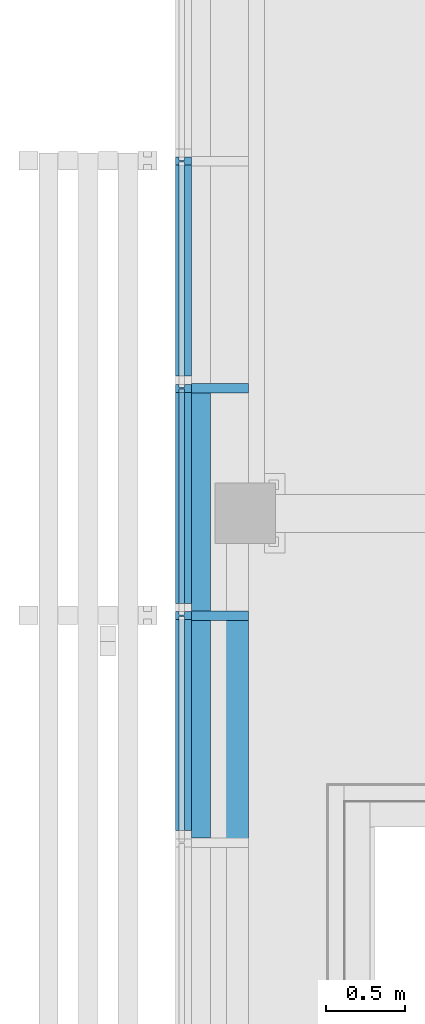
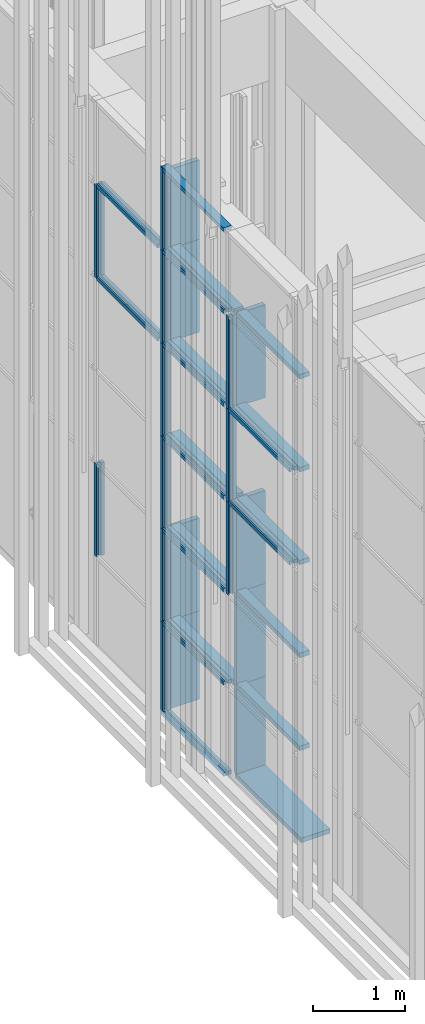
# One storey, part 19 of 260: 41 members, 2 elements without a shape of their own.
"""IFC2X3 building model written with IfcOpenShell, lengths in millimetres."""

from ifc_helpers import new_model, entity, si_unit, converted_unit, derived_unit, money_unit, direction, frame, origin_with_axes, place, context, subcontext, project, spatial, faceted_brep, source, transform, mapped, material, type_object, element, aggregate, save


model = new_model("IFC2X3")

# Units and contexts
model_context = context("Model", 3, precision=0.01, world=origin_with_axes(), true_north=direction((0.0, 1.0)))
body_context = subcontext(model_context, "Body", "Model", "MODEL_VIEW")
ifc_project = project(units=[si_unit("LENGTHUNIT", "METRE", prefix="MILLI"), si_unit("AREAUNIT", "SQUARE_METRE"), si_unit("VOLUMEUNIT", "CUBIC_METRE"), converted_unit("PLANEANGLEUNIT", "DEGREE", entity("IfcPlaneAngleMeasure", 0.0174532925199), si_unit("PLANEANGLEUNIT", "RADIAN"), dimensions=[0, 0, 0, 0, 0, 0, 0]), money_unit("EUR"), converted_unit("TIMEUNIT", "Year", entity("IfcTimeMeasure", 31556926.0), si_unit("TIMEUNIT", "SECOND"), dimensions=[0, 0, 1, 0, 0, 0, 0]), si_unit("MASSUNIT", "GRAM", prefix="KILO"), si_unit("THERMODYNAMICTEMPERATUREUNIT", "DEGREE_CELSIUS"), si_unit("LUMINOUSINTENSITYUNIT", "LUMEN"), si_unit("ENERGYUNIT", "JOULE", prefix="MEGA"), derived_unit("THERMALCONDUCTANCEUNIT", [(si_unit("POWERUNIT", "WATT"), 1), (si_unit("LENGTHUNIT", "METRE"), -1), (si_unit("THERMODYNAMICTEMPERATUREUNIT", "KELVIN"), -1)]), derived_unit("SPECIFICHEATCAPACITYUNIT", [(si_unit("ENERGYUNIT", "JOULE"), 1), (si_unit("MASSUNIT", "GRAM", prefix="KILO"), -1), (si_unit("THERMODYNAMICTEMPERATUREUNIT", "KELVIN"), -1)]), derived_unit("MASSDENSITYUNIT", [(si_unit("MASSUNIT", "GRAM", prefix="KILO"), 1), (si_unit("VOLUMEUNIT", "CUBIC_METRE"), -1)])], contexts=[model_context])

# Site, building, storey
site_placement = place(None, origin_with_axes())
site = spatial("IfcSite", under=ifc_project, at=site_placement, Name="Kolde pst 67a", CompositionType="ELEMENT")
building_placement = place(site_placement, origin_with_axes())
building = spatial("IfcBuilding", under=site, at=building_placement, Name="Riigigümnaasium", CompositionType="ELEMENT")
storey_placement = place(building_placement, origin_with_axes())
storey = spatial("IfcBuildingStorey", under=building, at=storey_placement, Name="1. korrus", CompositionType="ELEMENT", Elevation=0.0)

# Curtain wall, members
curtain_wall_type = type_object("IfcCurtainWallType", Name="Curtain Wall Type", PredefinedType="NOTDEFINED")
curtain_wall_1_placement = place(storey_placement, frame((47829.9854655, 8727.77020058, -0.000749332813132), z_axis=(0.0, 0.0, 1.0), x_axis=(1.0, 0.0, 0.0)))
curtain_wall_1 = element("IfcCurtainWall", 1, at=curtain_wall_1_placement, inside=storey, type_object=curtain_wall_type, Name="KLAASFASSAAD")
ifc_material_1 = material(Name="_METALL - alumiinium")
member_type_1 = type_object("IfcMemberType", Name="Mullion Frame 50 x 100", PredefinedType="MEMBER")
shared_shape_1 = source(origin_with_axes(), body_context, "Body", "Brep", [
    faceted_brep([(5.0, -16.5, 1230.00046362), (5.0, 16.5, 1230.00046362), (25.0, 16.5, 1230.00046362), (25.0, 40.0, 1230.00046362), (-25.0, 40.0, 1230.00046362), (-25.0, 16.5, 1230.00046362), (-5.0, 16.5, 1230.00046362), (-5.0, -16.5, 1230.00046362), (-25.0, -16.5, 1230.00046362), (-25.0, -60.0, 1230.00046362), (25.0, -60.0, 1230.00046362), (25.0, -16.5, 1230.00046362), (5.0, -16.5, 50.0), (5.0, 16.5, 50.0), (25.0, 16.5, 50.0), (25.0, 40.0, 50.0), (-25.0, 40.0, 50.0), (-25.0, 16.5, 50.0), (-5.0, 16.5, 50.0), (-5.0, -16.5, 50.0), (-25.0, -16.5, 50.0), (-25.0, -60.0, 50.0), (25.0, -60.0, 50.0), (25.0, -16.5, 50.0)], [[[0, 1, 2, 3, 4, 5, 6, 7, 8, 9, 10, 11]], [[0, 12, 13, 1]], [[1, 13, 14, 2]], [[14, 15, 3, 2]], [[4, 3, 15, 16]], [[17, 5, 4, 16]], [[5, 17, 18, 6]], [[7, 6, 18, 19]], [[8, 7, 19, 20]], [[8, 20, 21, 9]], [[10, 9, 21, 22]], [[11, 10, 22, 23]], [[11, 23, 12, 0]], [[13, 12, 23, 22, 21, 20, 19, 18, 17, 16, 15, 14]]]),
])
member_1_placement = place(curtain_wall_1_placement, frame((-8.66836558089e-06, 9508.79106023, 0.0), z_axis=(0.0, 6.32597545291e-09, 1.0), x_axis=(9.11613907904e-10, -1.0, 6.32597545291e-09)))
member_1 = element("IfcMember", 2, at=member_1_placement, type_object=member_type_1, material=ifc_material_1, Name="RF RAAM VERT-959", ObjectType="MEMBER", context=body_context, shape_type="MappedRepresentation", body=[
    mapped(shared_shape_1, transform((0.0, 0.0, 0.0), x_axis=(-1.0, 0.0, 6.32597545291e-09), y_axis=(0.0, -1.0, 0.0), z_axis=(6.32597545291e-09, 0.0, 1.0))),
])
shared_shape_2 = source(origin_with_axes(), body_context, "Body", "Brep", [
    faceted_brep([(5.0, -16.5, 1230.0), (5.0, 16.5, 1230.0), (25.0, 16.5, 1230.0), (25.0, 40.0, 1230.0), (-25.0, 40.0, 1230.0), (-25.0, 16.5, 1230.0), (-5.0, 16.5, 1230.0), (-5.0, -16.5, 1230.0), (-25.0, -16.5, 1230.0), (-25.0, -60.0, 1230.0), (25.0, -60.0, 1230.0), (25.0, -16.5, 1230.0), (5.0, -16.5, 0.0), (5.0, 16.5, 0.0), (25.0, 16.5, 0.0), (25.0, 40.0, 0.0), (-25.0, 40.0, 0.0), (-25.0, 16.5, 0.0), (-5.0, 16.5, 0.0), (-5.0, -16.5, 0.0), (-25.0, -16.5, 0.0), (-25.0, -60.0, 0.0), (25.0, -60.0, 0.0), (25.0, -16.5, 0.0)], [[[0, 1, 2, 3, 4, 5, 6, 7, 8, 9, 10, 11]], [[0, 12, 13, 1]], [[1, 13, 14, 2]], [[14, 15, 3, 2]], [[3, 15, 16, 4]], [[17, 5, 4, 16]], [[5, 17, 18, 6]], [[7, 6, 18, 19]], [[8, 7, 19, 20]], [[8, 20, 21, 9]], [[9, 21, 22, 10]], [[11, 10, 22, 23]], [[11, 23, 12, 0]], [[13, 12, 23, 22, 21, 20, 19, 18, 17, 16, 15, 14]]]),
])
member_2_placement = place(curtain_wall_1_placement, frame((-8.66836558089e-06, 9508.79106801, 4920.00074933), z_axis=(0.0, 0.0, 1.0), x_axis=(9.11613907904e-10, -1.0, 0.0)))
member_2 = element("IfcMember", 3, at=member_2_placement, type_object=member_type_1, material=ifc_material_1, Name="RF RAAM VERT-873", ObjectType="MEMBER", context=body_context, shape_type="MappedRepresentation", body=[
    mapped(shared_shape_2, transform((0.0, 0.0, 0.0), x_axis=(-1.0, 0.0, 0.0), y_axis=(0.0, -1.0, 0.0), z_axis=(0.0, 0.0, 1.0))),
])
member_3_placement = place(curtain_wall_1_placement, frame((-9.97197702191e-06, 10938.791068, 4920.00074933), z_axis=(0.0, 0.0, 1.0), x_axis=(9.11613907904e-10, -1.0, 0.0)))
member_3 = element("IfcMember", 4, at=member_3_placement, type_object=member_type_1, material=ifc_material_1, Name="RF RAAM VERT-875", ObjectType="MEMBER", context=body_context, shape_type="MappedRepresentation", body=[
    mapped(shared_shape_2, transform((0.0, 0.0, 0.0), x_axis=(-1.0, 0.0, 0.0), y_axis=(0.0, -1.0, 0.0), z_axis=(0.0, 0.0, 1.0))),
])
member_4_placement = place(curtain_wall_1_placement, frame((-9.97197702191e-06, 10938.791068, 1230.00074933), z_axis=(0.0, 0.0, 1.0), x_axis=(9.11613907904e-10, -1.0, 0.0)))
member_4 = element("IfcMember", 5, at=member_4_placement, type_object=member_type_1, material=ifc_material_1, Name="RF RAAM VERT-950", ObjectType="MEMBER", context=body_context, shape_type="MappedRepresentation", body=[
    mapped(shared_shape_2, transform((0.0, 0.0, 0.0), x_axis=(-1.0, 0.0, 0.0), y_axis=(0.0, -1.0, 0.0), z_axis=(0.0, 0.0, 1.0))),
])
member_5_placement = place(curtain_wall_1_placement, frame((-8.66836558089e-06, 9508.79106801, 1230.00074933), z_axis=(0.0, 0.0, 1.0), x_axis=(9.11613907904e-10, -1.0, 0.0)))
member_5 = element("IfcMember", 6, at=member_5_placement, type_object=member_type_1, material=ifc_material_1, Name="RF RAAM VERT-955", ObjectType="MEMBER", context=body_context, shape_type="MappedRepresentation", body=[
    mapped(shared_shape_2, transform((0.0, 0.0, 0.0), x_axis=(-1.0, 0.0, 0.0), y_axis=(0.0, -1.0, 0.0), z_axis=(0.0, 0.0, 1.0))),
])
member_6_placement = place(curtain_wall_1_placement, frame((-8.66836558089e-06, 9508.79106801, 2460.00074933), z_axis=(0.0, 0.0, 1.0), x_axis=(9.11613907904e-10, -1.0, 0.0)))
member_6 = element("IfcMember", 7, at=member_6_placement, type_object=member_type_1, material=ifc_material_1, Name="RF RAAM VERT-956", ObjectType="MEMBER", context=body_context, shape_type="MappedRepresentation", body=[
    mapped(shared_shape_2, transform((0.0, 0.0, 0.0), x_axis=(-1.0, 0.0, 0.0), y_axis=(0.0, -1.0, 0.0), z_axis=(0.0, 0.0, 1.0))),
])
member_7_placement = place(curtain_wall_1_placement, frame((-8.66836558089e-06, 9508.79106801, 3690.00074933), z_axis=(0.0, 0.0, 1.0), x_axis=(9.11613907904e-10, -1.0, 0.0)))
member_7 = element("IfcMember", 8, at=member_7_placement, type_object=member_type_1, material=ifc_material_1, Name="RF RAAM VERT-957", ObjectType="MEMBER", context=body_context, shape_type="MappedRepresentation", body=[
    mapped(shared_shape_2, transform((0.0, 0.0, 0.0), x_axis=(-1.0, 0.0, 0.0), y_axis=(0.0, -1.0, 0.0), z_axis=(0.0, 0.0, 1.0))),
])
member_8_placement = place(curtain_wall_1_placement, frame((-7.36476835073e-06, 8078.79946363, 2460.00074933), z_axis=(0.0, 0.0, 1.0), x_axis=(9.1161639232e-10, -1.0, 0.0)))
member_8 = element("IfcMember", 9, at=member_8_placement, type_object=member_type_1, material=ifc_material_1, Name="RF RAAM VERT-527", ObjectType="MEMBER", context=body_context, shape_type="MappedRepresentation", body=[
    mapped(shared_shape_2, transform((0.0, 0.0, 0.0), x_axis=(-1.0, 0.0, 0.0), y_axis=(0.0, -1.0, 0.0), z_axis=(0.0, 0.0, 1.0))),
])
member_9_placement = place(curtain_wall_1_placement, frame((-7.36476835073e-06, 8078.79946363, 3690.00074933), z_axis=(0.0, 0.0, 1.0), x_axis=(9.1161639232e-10, -1.0, 0.0)))
member_9 = element("IfcMember", 10, at=member_9_placement, type_object=member_type_1, material=ifc_material_1, Name="RF RAAM VERT-528", ObjectType="MEMBER", context=body_context, shape_type="MappedRepresentation", body=[
    mapped(shared_shape_2, transform((0.0, 0.0, 0.0), x_axis=(-1.0, 0.0, 0.0), y_axis=(0.0, -1.0, 0.0), z_axis=(0.0, 0.0, 1.0))),
])
member_10_placement = place(curtain_wall_1_placement, frame((-7.36476835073e-06, 8078.79946363, 4920.00074933), z_axis=(0.0, 9.91255641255e-09, 1.0), x_axis=(9.1161639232e-10, -1.0, 9.91255641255e-09)))
member_10 = element("IfcMember", 11, at=member_10_placement, type_object=member_type_1, material=ifc_material_1, Name="RF RAAM VERT-529", ObjectType="MEMBER", context=body_context, shape_type="MappedRepresentation", body=[
    mapped(shared_shape_2, transform((0.0, 0.0, 0.0), x_axis=(-1.0, 0.0, 9.91255641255e-09), y_axis=(0.0, -1.0, 0.0), z_axis=(9.91255641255e-09, 0.0, 1.0))),
])
member_type_2 = type_object("IfcMemberType", Name="Transom Frame 50 x 100", PredefinedType="MEMBER")
shared_shape_3 = source(origin_with_axes(), body_context, "Body", "Brep", [
    faceted_brep([(5.0, -16.5, 1327.75198335), (5.0, 16.5, 1327.75198335), (25.0, 16.5, 1327.75198335), (25.0, 40.0, 1327.75198335), (-25.0, 40.0, 1327.75198335), (-25.0, 16.5, 1327.75198335), (-5.0, 16.5, 1327.75198335), (-5.0, -16.5, 1327.75198335), (-25.0, -16.5, 1327.75198335), (-25.0, -60.0, 1327.75198335), (25.0, -60.0, 1327.75198335), (25.0, -16.5, 1327.75198335), (5.0, -16.5, 0.0), (5.0, 16.5, 0.0), (25.0, 16.5, 0.0), (25.0, 40.0, 0.0), (-25.0, 40.0, 0.0), (-25.0, 16.5, 0.0), (-5.0, 16.5, 0.0), (-5.0, -16.5, 0.0), (-25.0, -16.5, 0.0), (-25.0, -60.0, 0.0), (25.0, -60.0, 0.0), (25.0, -16.5, 0.0)], [[[0, 1, 2, 3, 4, 5, 6, 7, 8, 9, 10, 11]], [[0, 12, 13, 1]], [[1, 13, 14, 2]], [[14, 15, 3, 2]], [[3, 15, 16, 4]], [[17, 5, 4, 16]], [[5, 17, 18, 6]], [[7, 6, 18, 19]], [[8, 7, 19, 20]], [[8, 20, 21, 9]], [[9, 21, 22, 10]], [[11, 10, 22, 23]], [[11, 23, 12, 0]], [[13, 12, 23, 22, 21, 20, 19, 18, 17, 16, 15, 14]]]),
])
member_11_placement = place(curtain_wall_1_placement, frame((-7.43518313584e-06, 8156.03908467, 4920.00074933), z_axis=(-9.11610154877e-10, 1.0, 0.0), x_axis=(0.0, 0.0, 1.0)))
member_11 = element("IfcMember", 12, at=member_11_placement, type_object=member_type_2, material=ifc_material_1, Name="RF RAAM HOR-833", ObjectType="MEMBER", context=body_context, shape_type="MappedRepresentation", body=[
    mapped(shared_shape_3, transform((0.0, 0.0, 0.0), x_axis=(-1.0, 0.0, 0.0), y_axis=(0.0, -1.0, 9.11610032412e-10), z_axis=(0.0, 9.11610032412e-10, 1.0))),
])
member_12_placement = place(curtain_wall_1_placement, frame((-7.43518313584e-06, 8156.03908467, 6150.00074933), z_axis=(-9.11610154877e-10, 1.0, 0.0), x_axis=(0.0, 0.0, 1.0)))
member_12 = element("IfcMember", 13, at=member_12_placement, type_object=member_type_2, material=ifc_material_1, Name="RF RAAM HOR-834", ObjectType="MEMBER", context=body_context, shape_type="MappedRepresentation", body=[
    mapped(shared_shape_3, transform((0.0, 0.0, 0.0), x_axis=(-1.0, 0.0, 0.0), y_axis=(0.0, -1.0, 9.11610032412e-10), z_axis=(0.0, 9.11610032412e-10, 1.0))),
])
member_13_placement = place(curtain_wall_1_placement, frame((-8.73878747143e-06, 9586.03908467, 4920.00074933), z_axis=(-9.11615407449e-10, 1.0, 0.0), x_axis=(0.0, 0.0, 1.0)))
member_13 = element("IfcMember", 14, at=member_13_placement, type_object=member_type_2, material=ifc_material_1, Name="RF RAAM HOR-837", ObjectType="MEMBER", context=body_context, shape_type="MappedRepresentation", body=[
    mapped(shared_shape_3, transform((0.0, 0.0, 0.0), x_axis=(-1.0, 0.0, 0.0), y_axis=(0.0, -1.0, 9.11615284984e-10), z_axis=(0.0, 9.11615284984e-10, 1.0))),
])
member_14_placement = place(curtain_wall_1_placement, frame((-8.73878747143e-06, 9586.03908467, 6150.00074933), z_axis=(-9.11615407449e-10, 1.0, 0.0), x_axis=(0.0, 0.0, 1.0)))
member_14 = element("IfcMember", 15, at=member_14_placement, type_object=member_type_2, material=ifc_material_1, Name="RF RAAM HOR-838", ObjectType="MEMBER", context=body_context, shape_type="MappedRepresentation", body=[
    mapped(shared_shape_3, transform((0.0, 0.0, 0.0), x_axis=(-1.0, 0.0, 0.0), y_axis=(0.0, -1.0, 9.11615284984e-10), z_axis=(0.0, 9.11615284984e-10, 1.0))),
])
member_15_placement = place(curtain_wall_1_placement, frame((-7.43518313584e-06, 8156.03908467, 1230.00074933), z_axis=(-9.11610154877e-10, 1.0, 0.0), x_axis=(0.0, 0.0, 1.0)))
member_15 = element("IfcMember", 16, at=member_15_placement, type_object=member_type_2, material=ifc_material_1, Name="RF RAAM HOR-922", ObjectType="MEMBER", context=body_context, shape_type="MappedRepresentation", body=[
    mapped(shared_shape_3, transform((0.0, 0.0, 0.0), x_axis=(-1.0, 0.0, 0.0), y_axis=(0.0, -1.0, 9.11610032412e-10), z_axis=(0.0, 9.11610032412e-10, 1.0))),
])
member_16_placement = place(curtain_wall_1_placement, frame((-7.43518313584e-06, 8156.03908467, 2460.00074933), z_axis=(-9.11610154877e-10, 1.0, 0.0), x_axis=(0.0, 0.0, 1.0)))
member_16 = element("IfcMember", 17, at=member_16_placement, type_object=member_type_2, material=ifc_material_1, Name="RF RAAM HOR-923", ObjectType="MEMBER", context=body_context, shape_type="MappedRepresentation", body=[
    mapped(shared_shape_3, transform((0.0, 0.0, 0.0), x_axis=(-1.0, 0.0, 0.0), y_axis=(0.0, -1.0, 9.11610032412e-10), z_axis=(0.0, 9.11610032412e-10, 1.0))),
])
member_17_placement = place(curtain_wall_1_placement, frame((-7.43518313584e-06, 8156.03908467, 3690.00074933), z_axis=(-9.11610154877e-10, 1.0, 0.0), x_axis=(0.0, 0.0, 1.0)))
member_17 = element("IfcMember", 18, at=member_17_placement, type_object=member_type_2, material=ifc_material_1, Name="RF RAAM HOR-924", ObjectType="MEMBER", context=body_context, shape_type="MappedRepresentation", body=[
    mapped(shared_shape_3, transform((0.0, 0.0, 0.0), x_axis=(-1.0, 0.0, 0.0), y_axis=(0.0, -1.0, 9.11610032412e-10), z_axis=(0.0, 9.11610032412e-10, 1.0))),
])
shared_shape_4 = source(origin_with_axes(), body_context, "Body", "Brep", [
    faceted_brep([(5.0, -16.5, 1327.76037897), (5.0, 16.5, 1327.76037897), (25.0, 16.5, 1327.76037897), (25.0, 40.0, 1327.76037897), (-25.0, 40.0, 1327.76037897), (-25.0, 16.5, 1327.76037897), (-5.0, 16.5, 1327.76037897), (-5.0, -16.5, 1327.76037897), (-25.0, -16.5, 1327.76037897), (-25.0, -60.0, 1327.76037897), (25.0, -60.0, 1327.76037897), (25.0, -16.5, 1327.76037897), (5.0, -16.5, 0.0), (5.0, 16.5, 0.0), (25.0, 16.5, 0.0), (25.0, 40.0, 0.0), (-25.0, 40.0, 0.0), (-25.0, 16.5, 0.0), (-5.0, 16.5, 0.0), (-5.0, -16.5, 0.0), (-25.0, -16.5, 0.0), (-25.0, -60.0, 0.0), (25.0, -60.0, 0.0), (25.0, -16.5, 0.0)], [[[0, 1, 2, 3, 4, 5, 6, 7, 8, 9, 10, 11]], [[0, 12, 13, 1]], [[1, 13, 14, 2]], [[14, 15, 3, 2]], [[3, 15, 16, 4]], [[17, 5, 4, 16]], [[5, 17, 18, 6]], [[7, 6, 18, 19]], [[8, 7, 19, 20]], [[8, 20, 21, 9]], [[9, 21, 22, 10]], [[11, 10, 22, 23]], [[11, 23, 12, 0]], [[13, 12, 23, 22, 21, 20, 19, 18, 17, 16, 15, 14]]]),
])
member_18_placement = place(curtain_wall_1_placement, frame((-6.13157169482e-06, 6726.03908467, 3690.00074933), z_axis=(-9.11615002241e-10, 1.0, 0.0), x_axis=(0.0, 0.0, 1.0)))
member_18 = element("IfcMember", 19, at=member_18_placement, type_object=member_type_2, material=ifc_material_1, Name="RF RAAM HOR-396", ObjectType="MEMBER", context=body_context, shape_type="MappedRepresentation", body=[
    mapped(shared_shape_4, transform((0.0, 0.0, 0.0), x_axis=(-1.0, 0.0, 0.0), y_axis=(0.0, -1.0, 9.11614879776e-10), z_axis=(0.0, 9.11614879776e-10, 1.0))),
])
member_19_placement = place(curtain_wall_1_placement, frame((-6.13157169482e-06, 6726.03908467, 4920.00074933), z_axis=(-9.11615002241e-10, 1.0, 0.0), x_axis=(0.0, 0.0, 1.0)))
member_19 = element("IfcMember", 20, at=member_19_placement, type_object=member_type_2, material=ifc_material_1, Name="RF RAAM HOR-397", ObjectType="MEMBER", context=body_context, shape_type="MappedRepresentation", body=[
    mapped(shared_shape_4, transform((0.0, 0.0, 0.0), x_axis=(-1.0, 0.0, 0.0), y_axis=(0.0, -1.0, 9.11614879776e-10), z_axis=(0.0, 9.11614879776e-10, 1.0))),
])
member_type_3 = type_object("IfcMemberType", Name="Boundary Frame 50 x 100", PredefinedType="MEMBER")
shared_shape_5 = source(origin_with_axes(), body_context, "Body", "Brep", [
    faceted_brep([(-30.0, -16.5, 1352.75197298), (-50.0, -16.5, 1352.75197298), (-50.0, -60.0, 1352.75197298), (0.0, -60.0, 1352.75197298), (0.0, 40.0, 1352.75197298), (-50.0, 40.0, 1352.75197298), (-50.0, 16.5, 1352.75197298), (-30.0, 16.5, 1352.75197298), (-30.0, -16.5, 0.0), (-50.0, -16.5, 0.0), (-50.0, -60.0, 0.0), (0.0, -60.0, 0.0), (0.0, 40.0, 0.0), (-50.0, 40.0, 0.0), (-50.0, 16.5, 0.0), (-30.0, 16.5, 0.0)], [[[0, 1, 2, 3, 4, 5, 6, 7]], [[0, 8, 9, 1]], [[9, 10, 2, 1]], [[10, 11, 3, 2]], [[11, 12, 4, 3]], [[12, 13, 5, 4]], [[6, 5, 13, 14]], [[14, 15, 7, 6]], [[7, 15, 8, 0]], [[8, 15, 14, 13, 12, 11, 10, 9]]]),
])
member_20_placement = place(curtain_wall_1_placement, frame((-7.43518313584e-06, 8156.03908467, 0.0), z_axis=(-9.1161016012e-10, 1.0, 0.0), x_axis=(0.0, 0.0, 1.0)))
member_20 = element("IfcMember", 21, at=member_20_placement, type_object=member_type_3, material=ifc_material_1, Name="RF RAAM SERV-560", ObjectType="MEMBER", context=body_context, shape_type="MappedRepresentation", body=[
    mapped(shared_shape_5, transform((0.0, 0.0, 0.0), x_axis=(-1.0, 0.0, 0.0), y_axis=(0.0, -1.0, 9.11610037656e-10), z_axis=(0.0, 9.11610037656e-10, 1.0))),
])
member_21_placement = place(curtain_wall_1_placement, frame((-8.66836558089e-06, 9508.7910603, 7259.99994321), z_axis=(9.11610160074e-10, -1.0, 0.0), x_axis=(0.0, 0.0, -1.0)))
member_21 = element("IfcMember", 22, at=member_21_placement, type_object=member_type_3, material=ifc_material_1, Name="RF RAAM SERV-575", ObjectType="MEMBER", context=body_context, shape_type="MappedRepresentation", body=[
    mapped(shared_shape_5, transform((0.0, 0.0, 0.0), x_axis=(-1.0, 0.0, 0.0), y_axis=(0.0, -1.0, -9.11610160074e-10), z_axis=(0.0, -9.11610160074e-10, 1.0))),
])
shared_shape_6 = source(origin_with_axes(), body_context, "Body", "Brep", [
    faceted_brep([(5.0, -16.5, 1099.99900713), (5.0, 16.5, 1099.99900713), (25.0, 16.5, 1099.99900713), (25.0, 40.0, 1099.99900713), (-25.0, 40.0, 1099.99900713), (-25.0, 16.5, 1099.99900713), (-5.0, 16.5, 1099.99900713), (-5.0, -16.5, 1099.99900713), (-25.0, -16.5, 1099.99900713), (-25.0, -60.0, 1099.99900713), (25.0, -60.0, 1099.99900713), (25.0, -16.5, 1099.99900713), (5.0, -16.5, -4.55870452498e-07), (5.0, 16.5, -4.55870452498e-07), (25.0, 16.5, -4.55870452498e-07), (25.0, 40.0, -4.55870452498e-07), (-25.0, 40.0, -4.55870452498e-07), (-25.0, 16.5, -4.55870452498e-07), (-5.0, 16.5, -4.55870452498e-07), (-5.0, -16.5, -4.55870452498e-07), (-25.0, -16.5, -4.55870452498e-07), (-25.0, -60.0, -4.55870452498e-07), (25.0, -60.0, -4.55870452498e-07), (25.0, -16.5, -4.55870452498e-07)], [[[0, 1, 2, 3, 4, 5, 6, 7, 8, 9, 10, 11]], [[0, 12, 13, 1]], [[1, 13, 14, 2]], [[14, 15, 3, 2]], [[3, 15, 16, 4]], [[17, 5, 4, 16]], [[5, 17, 18, 6]], [[7, 6, 18, 19]], [[8, 7, 19, 20]], [[8, 20, 21, 9]], [[9, 21, 22, 10]], [[11, 10, 22, 23]], [[11, 23, 12, 0]], [[13, 12, 23, 22, 21, 20, 19, 18, 17, 16, 15, 14]]]),
])
member_22_placement = place(curtain_wall_1_placement, frame((-8.66836558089e-06, 9508.79106801, 6150.00074933), z_axis=(0.0, -6.94728538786e-09, 1.0), x_axis=(9.11613907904e-10, -1.0, -6.94728538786e-09)))
member_22 = element("IfcMember", 23, at=member_22_placement, type_object=member_type_1, material=ifc_material_1, Name="RF RAAM VERT-050", ObjectType="MEMBER", context=body_context, shape_type="MappedRepresentation", body=[
    mapped(shared_shape_6, transform((0.0, 0.0, 0.0), x_axis=(-1.0, 0.0, -6.94728538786e-09), y_axis=(0.0, -1.0, 0.0), z_axis=(-6.94728538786e-09, 0.0, 1.0))),
])
aggregate(curtain_wall_1, [member_2, member_11, member_12, member_3, member_13, member_14, member_4, member_5, member_15, member_16, member_6, member_17, member_7, member_1, member_20, member_22, member_21, member_8, member_18, member_9, member_19, member_10])

curtain_wall_2_placement = place(storey_placement, frame((47889.9854796, 7778.28071079, -0.000681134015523), z_axis=(0.0, 0.0, 1.0), x_axis=(1.0, 0.0, 0.0)))
curtain_wall_2 = element("IfcCurtainWall", 24, at=curtain_wall_2_placement, inside=storey, type_object=curtain_wall_type, Name="Klaasfassaadi puitkarkass")
ifc_material_2 = material(Name="_KANDETARIND - liimpuit vastavalt EK osale")
member_type_4 = type_object("IfcMemberType", Name="Transom Frame 60 x 120", PredefinedType="MEMBER")
shared_shape_7 = source(origin_with_axes(), body_context, "Body", "Brep", [
    faceted_brep([(-30.0, 0.0, 30.0), (-30.0, -120.0, 30.0), (-30.0, -120.0, 1400.0), (-30.0, 0.0, 1400.0), (30.0, 0.0, 30.0), (30.0, -120.0, 30.0), (30.0, -120.0, 1400.0), (30.0, 0.0, 1400.0)], [[[0, 1, 2, 3]], [[1, 0, 4, 5]], [[1, 5, 6, 2]], [[2, 6, 7, 3]], [[4, 0, 3, 7]], [[5, 4, 7, 6]]]),
])
member_23_placement = place(curtain_wall_2_placement, frame((-8.165983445e-06, 7598.28063511, 1230.00068113), z_axis=(-1.07471824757e-09, 1.0, 0.0), x_axis=(0.0, 0.0, 1.0)))
member_23 = element("IfcMember", 25, at=member_23_placement, type_object=member_type_4, material=ifc_material_2, Name="RF RAAM HOR-249", ObjectType="MEMBER", context=body_context, shape_type="MappedRepresentation", body=[
    mapped(shared_shape_7, transform((0.0, 0.0, 0.0), x_axis=(-1.0, 0.0, 0.0), y_axis=(0.0, -1.0, 1.07471812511e-09), z_axis=(0.0, 1.07471812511e-09, 1.0))),
])
member_24_placement = place(curtain_wall_2_placement, frame((-9.70283053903e-06, 9028.28063511, 1230.00068113), z_axis=(-1.07471327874e-09, 1.0, 0.0), x_axis=(0.0, 0.0, 1.0)))
member_24 = element("IfcMember", 26, at=member_24_placement, type_object=member_type_4, material=ifc_material_2, Name="RF RAAM HOR-249", ObjectType="MEMBER", context=body_context, shape_type="MappedRepresentation", body=[
    mapped(shared_shape_7, transform((0.0, 0.0, 0.0), x_axis=(-1.0, 0.0, 0.0), y_axis=(0.0, -1.0, 1.07471315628e-09), z_axis=(0.0, 1.07471315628e-09, 1.0))),
])
member_25_placement = place(curtain_wall_2_placement, frame((-8.165983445e-06, 7598.28063511, 2460.00068113), z_axis=(-1.07471824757e-09, 1.0, 0.0), x_axis=(0.0, 0.0, 1.0)))
member_25 = element("IfcMember", 27, at=member_25_placement, type_object=member_type_4, material=ifc_material_2, Name="RF RAAM HOR-249", ObjectType="MEMBER", context=body_context, shape_type="MappedRepresentation", body=[
    mapped(shared_shape_7, transform((0.0, 0.0, 0.0), x_axis=(-1.0, 0.0, 0.0), y_axis=(0.0, -1.0, 1.07471812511e-09), z_axis=(0.0, 1.07471812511e-09, 1.0))),
])
member_26_placement = place(curtain_wall_2_placement, frame((-9.70283053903e-06, 9028.28063511, 2460.00068113), z_axis=(-1.07471327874e-09, 1.0, 0.0), x_axis=(0.0, 0.0, 1.0)))
member_26 = element("IfcMember", 28, at=member_26_placement, type_object=member_type_4, material=ifc_material_2, Name="RF RAAM HOR-249", ObjectType="MEMBER", context=body_context, shape_type="MappedRepresentation", body=[
    mapped(shared_shape_7, transform((0.0, 0.0, 0.0), x_axis=(-1.0, 0.0, 0.0), y_axis=(0.0, -1.0, 1.07471315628e-09), z_axis=(0.0, 1.07471315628e-09, 1.0))),
])
member_27_placement = place(curtain_wall_2_placement, frame((-8.165983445e-06, 7598.28063511, 3690.00068113), z_axis=(-1.07471824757e-09, 1.0, 0.0), x_axis=(0.0, 0.0, 1.0)))
member_27 = element("IfcMember", 29, at=member_27_placement, type_object=member_type_4, material=ifc_material_2, Name="RF RAAM HOR-249", ObjectType="MEMBER", context=body_context, shape_type="MappedRepresentation", body=[
    mapped(shared_shape_7, transform((0.0, 0.0, 0.0), x_axis=(-1.0, 0.0, 0.0), y_axis=(0.0, -1.0, 1.07471812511e-09), z_axis=(0.0, 1.07471812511e-09, 1.0))),
])
member_28_placement = place(curtain_wall_2_placement, frame((-9.70283053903e-06, 9028.28063511, 3690.00068113), z_axis=(-1.07471327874e-09, 1.0, 0.0), x_axis=(0.0, 0.0, 1.0)))
member_28 = element("IfcMember", 30, at=member_28_placement, type_object=member_type_4, material=ifc_material_2, Name="RF RAAM HOR-249", ObjectType="MEMBER", context=body_context, shape_type="MappedRepresentation", body=[
    mapped(shared_shape_7, transform((0.0, 0.0, 0.0), x_axis=(-1.0, 0.0, 0.0), y_axis=(0.0, -1.0, 1.07471315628e-09), z_axis=(0.0, 1.07471315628e-09, 1.0))),
])
member_29_placement = place(curtain_wall_2_placement, frame((-8.165983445e-06, 7598.28063511, 4920.00068113), z_axis=(-1.07471824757e-09, 1.0, 0.0), x_axis=(0.0, 0.0, 1.0)))
member_29 = element("IfcMember", 31, at=member_29_placement, type_object=member_type_4, material=ifc_material_2, Name="RF RAAM HOR-249", ObjectType="MEMBER", context=body_context, shape_type="MappedRepresentation", body=[
    mapped(shared_shape_7, transform((0.0, 0.0, 0.0), x_axis=(-1.0, 0.0, 0.0), y_axis=(0.0, -1.0, 1.07471812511e-09), z_axis=(0.0, 1.07471812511e-09, 1.0))),
])
member_30_placement = place(curtain_wall_2_placement, frame((-9.70283053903e-06, 9028.28063511, 4920.00068113), z_axis=(-1.07471327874e-09, 1.0, 0.0), x_axis=(0.0, 0.0, 1.0)))
member_30 = element("IfcMember", 32, at=member_30_placement, type_object=member_type_4, material=ifc_material_2, Name="RF RAAM HOR-249", ObjectType="MEMBER", context=body_context, shape_type="MappedRepresentation", body=[
    mapped(shared_shape_7, transform((0.0, 0.0, 0.0), x_axis=(-1.0, 0.0, 0.0), y_axis=(0.0, -1.0, 1.07471315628e-09), z_axis=(0.0, 1.07471315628e-09, 1.0))),
])
member_31_placement = place(curtain_wall_2_placement, frame((-8.165983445e-06, 7598.28063511, 6150.00068113), z_axis=(-1.07471824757e-09, 1.0, 0.0), x_axis=(0.0, 0.0, 1.0)))
member_31 = element("IfcMember", 33, at=member_31_placement, type_object=member_type_4, material=ifc_material_2, Name="RF RAAM HOR-249", ObjectType="MEMBER", context=body_context, shape_type="MappedRepresentation", body=[
    mapped(shared_shape_7, transform((0.0, 0.0, 0.0), x_axis=(-1.0, 0.0, 0.0), y_axis=(0.0, -1.0, 1.07471812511e-09), z_axis=(0.0, 1.07471812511e-09, 1.0))),
])
member_32_placement = place(curtain_wall_2_placement, frame((-9.70283053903e-06, 9028.28063511, 6150.00068113), z_axis=(-1.07471327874e-09, 1.0, 0.0), x_axis=(0.0, 0.0, 1.0)))
member_32 = element("IfcMember", 34, at=member_32_placement, type_object=member_type_4, material=ifc_material_2, Name="RF RAAM HOR-249", ObjectType="MEMBER", context=body_context, shape_type="MappedRepresentation", body=[
    mapped(shared_shape_7, transform((0.0, 0.0, 0.0), x_axis=(-1.0, 0.0, 0.0), y_axis=(0.0, -1.0, 1.07471315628e-09), z_axis=(0.0, 1.07471315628e-09, 1.0))),
])
member_type_5 = type_object("IfcMemberType", Name="Mullion Frame 60 x 360", PredefinedType="MEMBER")
shared_shape_8 = source(origin_with_axes(), body_context, "Body", "Brep", [
    faceted_brep([(-30.0, 0.0, 60.0), (-30.0, -360.0, 60.0), (-30.0, -360.0, 1230.0002536), (-30.0, 0.0, 1230.0002536), (30.0, 0.0, 60.0), (30.0, -360.0, 60.0), (30.0, -360.0, 1230.0002536), (30.0, 0.0, 1230.0002536)], [[[0, 1, 2, 3]], [[1, 0, 4, 5]], [[1, 5, 6, 2]], [[2, 6, 7, 3]], [[4, 0, 3, 7]], [[5, 4, 7, 6]]]),
])
member_33_placement = place(curtain_wall_2_placement, frame((-9.70283053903e-06, 9028.28063511, 0.0), z_axis=(0.0, 0.0, 1.0), x_axis=(1.07471576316e-09, -1.0, 0.0)))
member_33 = element("IfcMember", 35, at=member_33_placement, type_object=member_type_5, material=ifc_material_2, Name="RF RAAM VERT-457", ObjectType="MEMBER", context=body_context, shape_type="MappedRepresentation", body=[
    mapped(shared_shape_8, transform((0.0, 0.0, 0.0), x_axis=(-1.0, 0.0, 0.0), y_axis=(0.0, -1.0, 0.0), z_axis=(0.0, 0.0, 1.0))),
])
member_34_placement = place(curtain_wall_2_placement, frame((-1.12396705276e-05, 10458.2806351, 0.0), z_axis=(0.0, 0.0, 1.0), x_axis=(1.07471576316e-09, -1.0, 0.0)))
member_34 = element("IfcMember", 36, at=member_34_placement, type_object=member_type_5, material=ifc_material_2, Name="RF RAAM VERT-457", ObjectType="MEMBER", context=body_context, shape_type="MappedRepresentation", body=[
    mapped(shared_shape_8, transform((0.0, 0.0, 0.0), x_axis=(-1.0, 0.0, 0.0), y_axis=(0.0, -1.0, 0.0), z_axis=(0.0, 0.0, 1.0))),
])
shared_shape_9 = source(origin_with_axes(), body_context, "Body", "Brep", [
    faceted_brep([(-30.0, -360.0, 0.0), (-30.0, -360.0, 1230.0), (-30.0, 0.0, 1230.0), (-30.0, 0.0, 0.0), (30.0, -360.0, 0.0), (30.0, -360.0, 1230.0), (30.0, 0.0, 1230.0), (30.0, 0.0, 0.0)], [[[0, 1, 2, 3]], [[4, 5, 1, 0]], [[1, 5, 6, 2]], [[3, 2, 6, 7]], [[0, 3, 7, 4]], [[7, 6, 5, 4]]]),
])
member_35_placement = place(curtain_wall_2_placement, frame((-9.70283053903e-06, 9028.28063511, 1230.00068113), z_axis=(0.0, 0.0, 1.0), x_axis=(1.07471576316e-09, -1.0, 0.0)))
member_35 = element("IfcMember", 37, at=member_35_placement, type_object=member_type_5, material=ifc_material_2, Name="RF RAAM VERT-457", ObjectType="MEMBER", context=body_context, shape_type="MappedRepresentation", body=[
    mapped(shared_shape_9, transform((0.0, 0.0, 0.0), x_axis=(-1.0, 0.0, 0.0), y_axis=(0.0, -1.0, 0.0), z_axis=(0.0, 0.0, 1.0))),
])
member_36_placement = place(curtain_wall_2_placement, frame((-9.70283053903e-06, 9028.28063511, 2460.00068113), z_axis=(0.0, 0.0, 1.0), x_axis=(1.07471576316e-09, -1.0, 0.0)))
member_36 = element("IfcMember", 38, at=member_36_placement, type_object=member_type_5, material=ifc_material_2, Name="RF RAAM VERT-457", ObjectType="MEMBER", context=body_context, shape_type="MappedRepresentation", body=[
    mapped(shared_shape_9, transform((0.0, 0.0, 0.0), x_axis=(-1.0, 0.0, 0.0), y_axis=(0.0, -1.0, 0.0), z_axis=(0.0, 0.0, 1.0))),
])
member_37_placement = place(curtain_wall_2_placement, frame((-9.70283053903e-06, 9028.28063511, 4920.00068113), z_axis=(0.0, 0.0, 1.0), x_axis=(1.07471576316e-09, -1.0, 0.0)))
member_37 = element("IfcMember", 39, at=member_37_placement, type_object=member_type_5, material=ifc_material_2, Name="RF RAAM VERT-457", ObjectType="MEMBER", context=body_context, shape_type="MappedRepresentation", body=[
    mapped(shared_shape_9, transform((0.0, 0.0, 0.0), x_axis=(-1.0, 0.0, 0.0), y_axis=(0.0, -1.0, 0.0), z_axis=(0.0, 0.0, 1.0))),
])
member_38_placement = place(curtain_wall_2_placement, frame((-1.12396705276e-05, 10458.2806351, 1230.00068113), z_axis=(0.0, 0.0, 1.0), x_axis=(1.07471576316e-09, -1.0, 0.0)))
member_38 = element("IfcMember", 40, at=member_38_placement, type_object=member_type_5, material=ifc_material_2, Name="RF RAAM VERT-457", ObjectType="MEMBER", context=body_context, shape_type="MappedRepresentation", body=[
    mapped(shared_shape_9, transform((0.0, 0.0, 0.0), x_axis=(-1.0, 0.0, 0.0), y_axis=(0.0, -1.0, 0.0), z_axis=(0.0, 0.0, 1.0))),
])
member_39_placement = place(curtain_wall_2_placement, frame((-1.12396705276e-05, 10458.2806351, 4920.00068113), z_axis=(0.0, 0.0, 1.0), x_axis=(1.07471576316e-09, -1.0, 0.0)))
member_39 = element("IfcMember", 41, at=member_39_placement, type_object=member_type_5, material=ifc_material_2, Name="RF RAAM VERT-457", ObjectType="MEMBER", context=body_context, shape_type="MappedRepresentation", body=[
    mapped(shared_shape_9, transform((0.0, 0.0, 0.0), x_axis=(-1.0, 0.0, 0.0), y_axis=(0.0, -1.0, 0.0), z_axis=(0.0, 0.0, 1.0))),
])
member_type_6 = type_object("IfcMemberType", Name="Boundary Frame 60 x 360", PredefinedType="MEMBER")
shared_shape_10 = source(origin_with_axes(), body_context, "Body", "Brep", [
    faceted_brep([(-60.0, -360.0, 0.0), (-60.0, -360.0, 1430.0), (-60.0, 0.0, 1430.0), (-60.0, 0.0, 0.0), (0.0, -360.0, 0.0), (0.0, -360.0, 1430.0), (0.0, 0.0, 1430.0), (0.0, 0.0, 0.0)], [[[0, 1, 2, 3]], [[4, 5, 1, 0]], [[1, 5, 6, 2]], [[3, 2, 6, 7]], [[0, 3, 7, 4]], [[7, 6, 5, 4]]]),
])
member_40_placement = place(curtain_wall_2_placement, frame((-8.165983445e-06, 7598.28063511, 0.0), z_axis=(-1.07471824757e-09, 1.0, 0.0), x_axis=(0.0, 0.0, 1.0)))
member_40 = element("IfcMember", 42, at=member_40_placement, type_object=member_type_6, material=ifc_material_2, Name="RF RAAM SERV-886", ObjectType="MEMBER", context=body_context, shape_type="MappedRepresentation", body=[
    mapped(shared_shape_10, transform((0.0, 0.0, 0.0), x_axis=(-1.0, 0.0, 0.0), y_axis=(0.0, -1.0, 1.07471812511e-09), z_axis=(0.0, 1.07471812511e-09, 1.0))),
])
shared_shape_11 = source(origin_with_axes(), body_context, "Body", "Brep", [
    faceted_brep([(-30.0, -360.0, 0.0), (-30.0, -360.0, 1049.99958427), (-30.0, 0.0, 1049.99958755), (-30.0, 0.0, 0.0), (30.0, -360.0, 0.0), (30.0, -360.0, 1049.99958427), (30.0, 0.0, 1049.99958755), (30.0, 0.0, 0.0)], [[[0, 1, 2, 3]], [[4, 5, 1, 0]], [[1, 5, 6, 2]], [[3, 2, 6, 7]], [[0, 3, 7, 4]], [[7, 6, 5, 4]]]),
])
member_41_placement = place(curtain_wall_2_placement, frame((-1.12396705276e-05, 10458.2806351, 6150.00068113), z_axis=(0.0, 0.0, 1.0), x_axis=(1.07471576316e-09, -1.0, 0.0)))
member_41 = element("IfcMember", 43, at=member_41_placement, type_object=member_type_5, material=ifc_material_2, Name="RF RAAM VERT-879", ObjectType="MEMBER", context=body_context, shape_type="MappedRepresentation", body=[
    mapped(shared_shape_11, transform((0.0, 0.0, 0.0), x_axis=(-1.0, 0.0, 0.0), y_axis=(0.0, -1.0, 0.0), z_axis=(0.0, 0.0, 1.0))),
])
aggregate(curtain_wall_2, [member_33, member_35, member_36, member_37, member_34, member_38, member_39, member_40, member_23, member_24, member_25, member_26, member_27, member_28, member_29, member_30, member_31, member_32, member_41])

save(model, "model.ifc")
